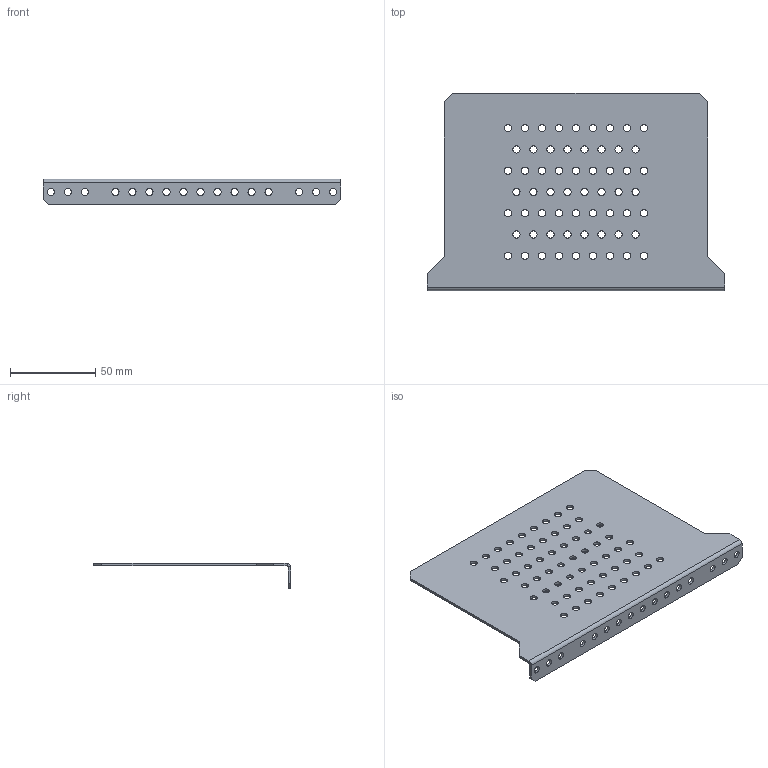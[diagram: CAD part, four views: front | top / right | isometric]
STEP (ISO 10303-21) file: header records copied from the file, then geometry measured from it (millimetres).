
FILE_DESCRIPTION(('CAx-IF Rec.Pracs.---Model Styling and Organization---1.2---2011-12-15','CAx-IF Rec.Pracs.---Geometric and Assembly Validation Properties---4.1---2014-06-16','CAx-IF Rec.Pracs.---PMI Polyline Presentation---2.0---2013-05-24'),'2;1');
FILE_NAME('R5M2W3M2BP.stp','2021-05-05T12:14:46+03:00',(''),(''),'STEP Interface 4.4 by CT CoreTechnologie','3D_Evolution4.4 by CT CoreTechnologie','');
FILE_SCHEMA(('AUTOMOTIVE_DESIGN { 1 0 10303 214 1 1 1 1 }'));
Length unit declared in the file: millimetre
Products named in the file (2): R5M2W3M2BP; RB.1200.00.00.0_-04
Assembly tree (1 placements, depth 2):
  R5M2W3M2BP
    RB.1200.00.00.0_-04
Bounding box: 175 x 116 x 15 mm (x, y, z)
Surface area: 41292.6 mm2 (no closed solid volume)
Topology: 0 solids, 1 shells, 174 faces, 508 edges, 336 vertices
Faces by surface type: cylinder 154, plane 20
Entity records: 6313 total; most frequent: DIRECTION 1168, CARTESIAN_POINT 1020, ORIENTED_EDGE 1016, EDGE_CURVE 508, AXIS2_PLACEMENT_3D 484, VERTEX_POINT 336, EDGE_LOOP 326, CIRCLE 308
